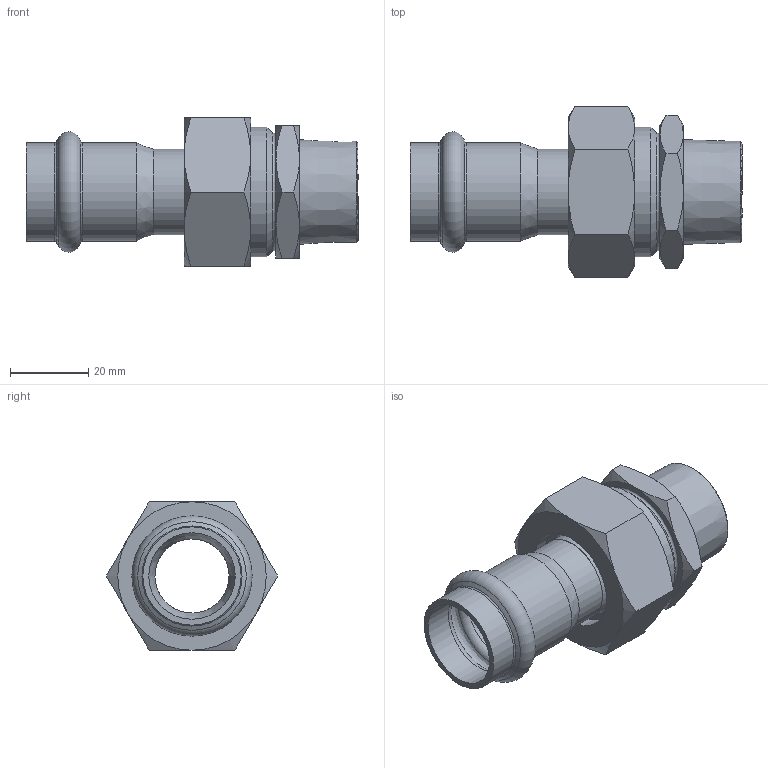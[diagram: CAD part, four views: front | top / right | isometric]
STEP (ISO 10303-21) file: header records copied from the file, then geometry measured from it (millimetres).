
FILE_DESCRIPTION((''),'2;1');
FILE_NAME('G:\Nirosan-Schmiedefeld\Technics\CAD\Bauteile VA\022\69333G2234(3).stp','2011-06-28T16:20:57',('herberg'),(''),'Autodesk Inventor 2009','Autodesk Inventor 2009','');
FILE_SCHEMA(('AUTOMOTIVE_DESIGN { 1 0 10303 214 1 1 1 1 }'));
Length unit declared in the file: millimetre
Products named in the file (7): 69333G2234(3); 69359mms221(1); HM_6924322(1); R221(0); FD_3021_EPDM(0); MS_SM221(2); 69376G134(1)
Assembly tree (6 placements, depth 3):
  69333G2234(3)
    69359mms221(1)
      HM_6924322(1)
      R221(0)
      FD_3021_EPDM(0)
      MS_SM221(2)
    69376G134(1)
Bounding box: 85 x 43.88 x 38 mm (x, y, z)
Volume: 30666 mm3; surface area: 21601 mm2
Topology: 5 solids, 5 shells, 85 faces, 168 edges, 97 vertices
Faces by surface type: cone 34, plane 25, cylinder 12, bspline 10, torus 4
Full cylindrical faces by diameter (mm): 19 x2, 21 x1, 22 x2, 22.15 x2, 25.15 x2, 29 x1, 30 x1, 33.249 x1
Entity records: 2412 total; most frequent: CARTESIAN_POINT 720, DIRECTION 330, ORIENTED_EDGE 262, AXIS2_PLACEMENT_3D 159, EDGE_LOOP 134, EDGE_CURVE 131, VERTEX_POINT 95, FACE_OUTER_BOUND 85
